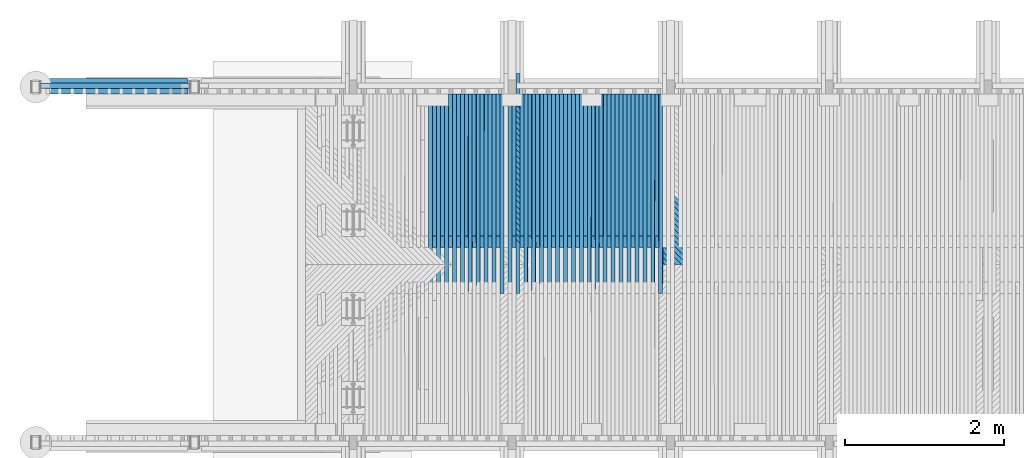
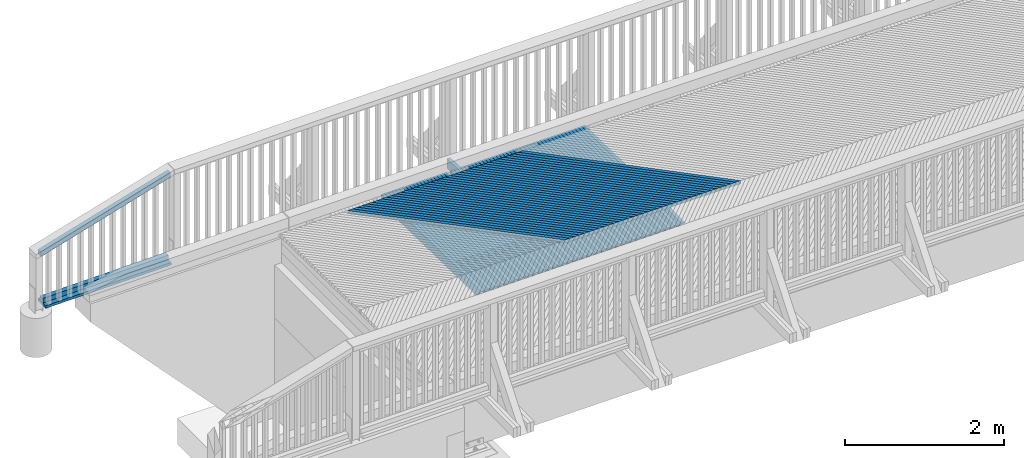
# One storey, part 20 of 53: 97 beams.
"""IFC2X3 building model written with IfcOpenShell, lengths in millimetres."""

from ifc_helpers import new_model, si_unit, frame, origin_with_axes, place, context, subcontext, project, spatial, faceted_brep, material, type_object, element, save


model = new_model("IFC2X3")

# Units and contexts
model_context = context("Model", 3, precision=1e-05, world=origin_with_axes())
body_context = subcontext(model_context, "Body", "Model", "MODEL_VIEW")
ifc_project = project(units=[si_unit("LENGTHUNIT", "METRE", prefix="MILLI"), si_unit("AREAUNIT", "SQUARE_METRE"), si_unit("VOLUMEUNIT", "CUBIC_METRE"), si_unit("MASSUNIT", "GRAM", prefix="KILO"), si_unit("TIMEUNIT", "SECOND"), si_unit("PLANEANGLEUNIT", "RADIAN"), si_unit("SOLIDANGLEUNIT", "STERADIAN"), si_unit("THERMODYNAMICTEMPERATUREUNIT", "DEGREE_CELSIUS"), si_unit("LUMINOUSINTENSITYUNIT", "LUMEN")], contexts=[model_context])

# Site, building, storey
site_placement = place(None, origin_with_axes())
site = spatial("IfcSite", under=ifc_project, at=site_placement, Name="Undefined", CompositionType="ELEMENT")
building_placement = place(site_placement, origin_with_axes())
building = spatial("IfcBuilding", under=site, at=building_placement, Name="Undefined", CompositionType="ELEMENT")
storey_placement = place(building_placement, origin_with_axes())
storey = spatial("IfcBuildingStorey", under=building, at=storey_placement, Name="Undefined", CompositionType="ELEMENT", Elevation=0.0)

# Beams
ifc_material = material(Name="TIMBER/Timber_Undefined")
beam_type_1 = type_object("IfcBeamType", Name="70*70", PredefinedType="NOTDEFINED")
beam_1_placement = place(storey_placement, frame((-3930.40492440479, 44619.9900452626, 3879.53617466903), z_axis=(0.0, 1.0, 0.0), x_axis=(0.958203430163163, 0.0, 0.286087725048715)))
element("IfcBeam", 1, at=beam_1_placement, inside=storey, type_object=beam_type_1, material=ifc_material, Name="BEAM", ObjectType="70*70", context=body_context, shape_type="Brep", body=[
    faceted_brep([(-20.4634471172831, 34.9999999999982, -35.0), (-20.4634471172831, 34.9999999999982, 35.0), (1941.54163533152, 34.9999999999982, 35.0), (1941.54163533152, 34.9999999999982, -35.0), (0.436228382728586, -35.0000000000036, 35.0), (1962.44131083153, -35.0000000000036, 35.0), (0.436228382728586, -35.0000000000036, -35.0), (1962.44131083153, -35.0000000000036, -35.0)], [[[0, 1, 2, 3]], [[1, 4, 5, 2]], [[4, 6, 7, 5]], [[6, 0, 3, 7]], [[5, 7, 3, 2]], [[6, 4, 1, 0]]]),
])
beam_2_placement = place(storey_placement, frame((-3909.4703719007, 44619.9900299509, 3156.34116342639), z_axis=(0.0, 1.0, 0.0), x_axis=(0.999883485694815, 0.0, 0.0152648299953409)))
element("IfcBeam", 2, at=beam_2_placement, inside=storey, type_object=beam_type_1, material=ifc_material, Name="BEAM", ObjectType="70*70", context=body_context, shape_type="Brep", body=[
    faceted_brep([(-3.63797880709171e-12, 35.0000000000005, -35.0), (-3.63797880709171e-12, 35.0000000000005, 35.0), (1820.22135781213, 35.0, 35.0), (1820.22135781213, 35.0, -35.0), (-3.63797880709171e-12, -34.9999999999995, 35.0), (1820.22135781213, -34.9999999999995, 35.0), (-3.63797880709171e-12, -34.9999999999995, -35.0), (1820.22135781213, -34.9999999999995, -35.0)], [[[0, 1, 2, 3]], [[1, 4, 5, 2]], [[4, 6, 7, 5]], [[6, 0, 3, 7]], [[5, 7, 3, 2]], [[6, 4, 1, 0]]]),
])
beam_type_2 = type_object("IfcBeamType", Name="195*40", PredefinedType="NOTDEFINED")
beam_3_placement = place(storey_placement, frame((-3909.69934434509, 44612.4900299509, 3101.33941571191), z_axis=(0.0, 1.0, 0.0), x_axis=(0.999883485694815, 0.0, 0.0152648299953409)))
element("IfcBeam", 3, at=beam_3_placement, inside=storey, type_object=beam_type_2, material=ifc_material, Name="BEAM", ObjectType="195*40", context=body_context, shape_type="Brep", body=[
    faceted_brep([(0.0, 20.0, -97.5), (0.0, 20.0, 97.5), (1820.22135781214, 20.0, 97.5), (1820.22135781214, 20.0, -97.5), (3.63797880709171e-12, -20.0, 97.5), (1820.22135781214, -20.0, 97.5), (3.63797880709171e-12, -20.0, -97.5), (1820.22135781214, -20.0, -97.5)], [[[0, 1, 2, 3]], [[1, 4, 5, 2]], [[4, 6, 7, 5]], [[6, 0, 3, 7]], [[5, 7, 3, 2]], [[6, 4, 1, 0]]]),
])
beam_type_3 = type_object("IfcBeamType", Name="50*50", PredefinedType="NOTDEFINED")
for number, where, z_axis, x_axis, name in (
    (4, (2407.22407080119, 42365.4998996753, 3210.14689026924), (0.707203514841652, 0.706981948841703, -0.00630179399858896), (-0.706923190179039, 0.706948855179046, -0.0219754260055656), "BEAM"),
    (5, (2477.94529164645, 42365.4998996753, 3210.79966793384), (0.707202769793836, 0.706981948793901, -0.0063848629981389), (-0.706925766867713, 0.706948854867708, -0.0218923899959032), "BEAM"),
    (6, (4882.50574585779, 42365.4998996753, 3228.05141176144), (0.707171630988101, 0.706981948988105, -0.00920913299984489), (-0.707007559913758, 0.706948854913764, -0.0190689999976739), "BEAM"),
    (7, (4811.78248202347, 42365.4998996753, 3227.68107523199), (0.707172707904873, 0.7069819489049, -0.00912606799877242), (-0.707005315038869, 0.706948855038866, -0.0191520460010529), "BEAM"),
    (8, (4741.05926217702, 42365.4998996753, 3227.30243150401), (0.707173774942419, 0.706981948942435, -0.00904300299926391), (-0.707003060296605, 0.706948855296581, -0.0192350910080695), "BEAM"),
    (9, (4670.33608729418, 42365.4998996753, 3226.91548058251), (0.707174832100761, 0.706981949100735, -0.00895993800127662), (-0.707000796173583, 0.70694885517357, -0.019318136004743), "BEAM"),
    (10, (4599.61295835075, 42365.4998996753, 3226.52022247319), (0.707175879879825, 0.706981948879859, -0.00887687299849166), (-0.706998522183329, 0.706948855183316, -0.0194011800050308), "BEAM"),
    (11, (4528.88987632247, 42365.4998996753, 3226.11665718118), (0.707176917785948, 0.706981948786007, -0.00879380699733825), (-0.706996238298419, 0.706948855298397, -0.0194842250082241), "BEAM"),
    (12, (4458.16684218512, 42365.4998996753, 3225.70478471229), (0.707177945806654, 0.706981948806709, -0.00871074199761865), (-0.706993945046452, 0.706948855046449, -0.0195672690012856), "BEAM"),
    (13, (4387.44385691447, 42365.4998996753, 3225.284605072), (0.707178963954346, 0.70698194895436, -0.00862767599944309), (-0.706991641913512, 0.706948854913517, -0.0196503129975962), "BEAM"),
    (14, (4316.72092148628, 42365.4998996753, 3224.85611826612), (0.707179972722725, 0.706981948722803, -0.00854460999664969), (-0.706989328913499, 0.706948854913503, -0.0197333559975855), "BEAM"),
    (15, (4245.99803687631, 42365.4998996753, 3224.41932430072), (0.707180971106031, 0.706981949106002, -0.0084615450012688), (-0.706987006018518, 0.706948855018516, -0.019816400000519), "BEAM"),
    (16, (4175.27520406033, 42365.4998996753, 3223.97422318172), (0.707181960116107, 0.706981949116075, -0.00837847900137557), (-0.706984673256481, 0.706948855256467, -0.0198994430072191), "BEAM"),
    (17, (4104.5524240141, 42365.4998996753, 3223.52081491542), (0.707182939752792, 0.706981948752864, -0.00829541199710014), (-0.706982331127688, 0.706948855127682, -0.019982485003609), "BEAM"),
    (18, (4033.82969771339, 42365.4998996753, 3223.05909950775), (0.707183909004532, 0.706981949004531, -0.00821234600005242), (-0.706979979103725, 0.70694885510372, -0.0200655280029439), "BEAM"),
    (19, (3963.10702613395, 42365.4998996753, 3222.58907696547), (0.707184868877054, 0.70698194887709, -0.00812927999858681), (-0.706977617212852, 0.706948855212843, -0.0201485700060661), "BEAM"),
    (20, (3892.38441025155, 42365.4998996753, 3222.11074729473), (0.707185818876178, 0.706981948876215, -0.00804621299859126), (-0.706975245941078, 0.706948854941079, -0.0202316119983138), "BEAM"),
    (21, (3821.66185104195, 42365.4998996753, 3221.62411050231), (0.707186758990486, 0.706981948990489, -0.0079631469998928), (-0.706972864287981, 0.70694885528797, -0.0203146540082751), "BEAM"),
    (22, (3750.93934948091, 42365.4998996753, 3221.12916659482), (0.707187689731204, 0.706981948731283, -0.00788007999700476), (-0.706970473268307, 0.706948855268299, -0.0203976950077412), "BEAM"),
    (23, (3680.21690654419, 42365.4998996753, 3220.62591557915), (0.707188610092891, 0.706981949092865, -0.00779701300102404), (-0.70696807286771, 0.706948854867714, -0.0204807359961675), "BEAM"),
    (24, (3609.49452320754, 42365.4998996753, 3220.11435746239), (0.707189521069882, 0.706981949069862, -0.00771394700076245), (-0.70696566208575, 0.706948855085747, -0.0205637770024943), "BEAM"),
    (25, (3538.77220044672, 42365.4998996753, 3219.59449225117), (0.707190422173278, 0.706981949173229, -0.00763088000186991), (-0.706963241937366, 0.706948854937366, -0.0206468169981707), "BEAM"),
    (26, (3468.04993923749, 42365.4998996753, 3219.06631995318), (0.707191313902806, 0.706981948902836, -0.00754781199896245), (-0.706960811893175, 0.706948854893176, -0.0207298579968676), "BEAM"),
    (27, (3397.3277405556, 42365.4998996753, 3218.52984057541), (0.707192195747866, 0.706981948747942, -0.00746474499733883), (-0.70695837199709, 0.706948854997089, -0.0208128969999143), "BEAM"),
    (28, (3326.60560537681, 42365.4998996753, 3217.98505412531), (0.707193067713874, 0.70698194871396, -0.00738167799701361), (-0.706955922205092, 0.70694885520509, -0.020895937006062), "BEAM"),
    (29, (3255.88353467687, 42365.4998996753, 3217.43196061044), (0.707193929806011, 0.70698194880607, -0.00729860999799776), (-0.706953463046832, 0.706948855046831, -0.0209789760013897), "BEAM"),
    (30, (3185.16152943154, 42365.4998996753, 3216.87056003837), (0.707194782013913, 0.70698194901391, -0.00721554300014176), (-0.706950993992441, 0.706948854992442, -0.0210620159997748), "BEAM"),
    (31, (3114.43959061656, 42365.4998996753, 3216.30085241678), (0.707195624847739, 0.706981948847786, -0.00713247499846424), (-0.706948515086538, 0.706948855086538, -0.0211450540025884), "BEAM"),
    (32, (3043.7177192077, 42365.4998996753, 3215.72283775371), (0.707196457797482, 0.706981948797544, -0.00704940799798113), (-0.706946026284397, 0.706948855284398, -0.0212280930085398), "BEAM"),
    (33, (2972.99591618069, 42365.4998996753, 3215.13651605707), (0.707197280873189, 0.706981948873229, -0.00696633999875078), (-0.706943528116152, 0.706948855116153, -0.0213111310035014), "BEAM"),
    (34, (2902.27418251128, 42365.4998996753, 3214.5418873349), (0.707198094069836, 0.706981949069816, -0.00688327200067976), (-0.706941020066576, 0.706948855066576, -0.0213941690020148), "BEAM"),
    (35, (2831.55251917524, 42365.4998996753, 3213.93895159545), (0.70719889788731, 0.706981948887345, -0.00680020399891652), (-0.706938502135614, 0.706948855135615, -0.02147720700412), "BEAM"),
    (36, (2760.83092714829, 42365.4998996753, 3213.32770884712), (0.707199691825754, 0.706981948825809, -0.00671713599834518), (-0.706935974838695, 0.706948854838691, -0.0215602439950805), "BEAM"),
    (37, (2690.1094074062, 42365.4998996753, 3212.70815909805), (0.707200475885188, 0.706981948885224, -0.00663406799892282), (-0.70693343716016, 0.706948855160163, -0.0216432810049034), "BEAM"),
    (38, (2619.38796092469, 42365.4998996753, 3212.08030235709), (0.70720125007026, 0.706981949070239, -0.00655099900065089), (-0.706930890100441, 0.706948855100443, -0.0217263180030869), "BEAM"),
    (39, (2548.66658867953, 42365.4998996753, 3211.44413863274), (0.707202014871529, 0.70698194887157, -0.00646793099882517), (-0.706928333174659, 0.706948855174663, -0.0218093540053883), "BEAM"),
):
    element("IfcBeam", number, at=place(storey_placement, frame(where, z_axis=z_axis, x_axis=x_axis)), inside=storey, type_object=beam_type_3, material=ifc_material, Name=name, ObjectType="50*50", context=body_context, shape_type="Brep", body=[
        faceted_brep([(23.5869248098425, 25.0000000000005, -24.9999999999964), (-26.415415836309, 25.0000000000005, 25.0000000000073), (2802.92643296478, 25.0, 25.0), (2852.92877373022, 25.0, -25.0000000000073), (-25.001170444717, -24.9999999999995, 25.0000000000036), (2804.3406783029, -25.0, 24.9999999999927), (25.0011701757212, -24.9999999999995, -24.9999999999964), (2854.34301907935, -25.0, -25.0)], [[[0, 1, 2, 3]], [[1, 4, 5, 2]], [[4, 6, 7, 5]], [[6, 0, 3, 7]], [[5, 7, 3, 2]], [[6, 4, 1, 0]]]),
    ])
beam_type_4 = type_object("IfcBeamType", Name="150*50", PredefinedType="NOTDEFINED")
for number, where, z_axis, x_axis, name in (
    (40, (3875.98195239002, 44513.4953923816, 3079.01849258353), (-0.00693292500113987, 0.0199960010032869, 0.999776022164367), (-0.000138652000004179, -0.99980006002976, 0.0199955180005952), "BEAM"),
    (41, (3775.96432395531, 44513.4953923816, 3078.32495570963), (-0.007098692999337, 0.0199960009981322, 0.999774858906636), (-0.00014197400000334, -0.999800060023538, 0.0199954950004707), "BEAM"),
    (42, (3675.94681213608, 44513.4953923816, 3077.61480038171), (-0.00726481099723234, 0.0199960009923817, 0.999773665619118), (-0.000145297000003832, -0.999800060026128, 0.0199954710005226), "BEAM"),
    (43, (3575.92941969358, 44513.4953923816, 3076.88802661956), (-0.00743092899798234, 0.0199960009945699, 0.999772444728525), (-0.000148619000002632, -0.999800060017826, 0.0199954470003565), "BEAM"),
    (44, (3475.91214938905, 44513.4953923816, 3076.1446344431), (-0.00759704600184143, 0.0199960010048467, 0.99977119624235), (-0.000151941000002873, -0.999800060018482, 0.0199954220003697), "BEAM"),
    (45, (3375.89500398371, 44513.4953923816, 3075.38462387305), (-0.00776316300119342, 0.0199960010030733, 0.999769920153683), (-0.000155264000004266, -0.999800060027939, 0.0199953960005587), "BEAM"),
    (46, (3275.87798623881, 44513.4953923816, 3074.60799493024), (-0.0079292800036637, 0.019996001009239, 0.99976861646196), (-0.000158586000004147, -0.999800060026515, 0.0199953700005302), "BEAM"),
    (47, (3175.86109891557, 44513.4953923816, 3073.81474763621), (-0.00809539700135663, 0.0199960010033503, 0.999767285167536), (-0.000161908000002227, -0.999800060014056, 0.0199953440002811), "BEAM"),
    (48, (3075.84434477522, 44513.4953923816, 3073.00488201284), (-0.00826151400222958, 0.0199960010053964, 0.999765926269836), (-0.00016523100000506, -0.999800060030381, 0.0199953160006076), "BEAM"),
    (49, (2975.82772657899, 44513.4953923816, 3072.1783980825), (-0.00842762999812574, 0.0199960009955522, 0.999764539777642), (-0.0001685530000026, -0.999800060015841, 0.0199952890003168), "BEAM"),
    (50, (2875.81124708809, 44513.4953923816, 3071.33529586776), (-0.00859374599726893, 0.0199960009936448, 0.999763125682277), (-0.000171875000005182, -0.999800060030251, 0.019995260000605), "BEAM"),
    (51, (2775.79490906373, 44513.4953923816, 3070.47557539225), (-0.00875986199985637, 0.0199960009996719, 0.999761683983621), (-0.000175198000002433, -0.999800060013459, 0.0199952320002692), "BEAM"),
    (52, (2675.77871526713, 44513.4953923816, 3069.5992366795), (-0.00892597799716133, 0.0199960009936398, 0.999760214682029), (-0.000178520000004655, -0.999800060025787, 0.0199952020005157), "BEAM"),
    (53, (2575.76266845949, 44513.4953923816, 3068.70627975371), (-0.00909209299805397, 0.0199960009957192, 0.999758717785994), (-0.000181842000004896, -0.999800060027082, 0.0199951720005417), "BEAM"),
    (54, (2475.74677140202, 44513.4953923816, 3067.79670463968), (-0.00925820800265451, 0.0199960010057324, 0.999757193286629), (-0.000185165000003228, -0.999800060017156, 0.0199951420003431), "BEAM"),
    (55, (2375.73102685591, 44513.4953923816, 3066.87051136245), (-0.00942432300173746, 0.0199960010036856, 0.999755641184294), (-0.000188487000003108, -0.999800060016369, 0.0199951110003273), "BEAM"),
    (56, (2275.71543758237, 44513.4953923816, 3065.9276999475), (-0.00959043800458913, 0.0199960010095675, 0.999754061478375), (-0.00019180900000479, -0.999800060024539, 0.0199950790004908), "BEAM"),
    (57, (2175.70000634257, 44513.4953923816, 3064.96827042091), (-0.00975672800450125, 0.019996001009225, 0.999752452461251), (-0.000195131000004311, -0.999800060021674, 0.0199950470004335), "BEAM"),
):
    element("IfcBeam", number, at=place(storey_placement, frame(where, z_axis=z_axis, x_axis=x_axis)), inside=storey, type_object=beam_type_4, material=ifc_material, Name=name, ObjectType="150*50", context=body_context, shape_type="Brep", body=[
        faceted_brep([(1.28420651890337e-08, -24.9999999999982, -74.9999999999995), (1.28420651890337e-08, 25.0000000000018, -75.0), (2375.00494422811, 25.0000000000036, -75.0), (2375.0049444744, -24.9999999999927, -74.9999999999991), (-1.28347892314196e-08, -24.9999999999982, 75.0), (-1.28347892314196e-08, 25.0, 75.0), (2150.42515052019, 25.0000000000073, 75.0), (2510.59248715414, 25.0000000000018, 60.5875433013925), (2510.5924871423, -24.9999999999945, 60.5875430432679), (2150.42514405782, -24.9999999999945, 75.0)], [[[0, 1, 2, 3]], [[0, 4, 5, 1]], [[2, 1, 5, 6, 7]], [[3, 2, 7, 8]], [[4, 0, 3, 8, 9]], [[5, 4, 9, 6]], [[8, 7, 6, 9]]]),
    ])
for number, where, z_axis, x_axis, name in (
    (58, (3825.98315440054, 44513.4953923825, 3078.67179443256), (-0.00693292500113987, 0.0199960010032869, 0.999776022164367), (-0.000138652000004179, -0.99980006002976, 0.0199955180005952), "BEAM"),
    (59, (3725.96558426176, 44513.4953923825, 3077.96994999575), (-0.007098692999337, 0.0199960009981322, 0.999774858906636), (-0.00014197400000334, -0.999800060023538, 0.0199954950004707), "BEAM"),
    (60, (3625.9481321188, 44513.4953923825, 3077.25148711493), (-0.00726481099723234, 0.0199960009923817, 0.999773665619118), (-0.000145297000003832, -0.999800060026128, 0.0199954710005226), "BEAM"),
    (61, (3525.93080073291, 44513.4953923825, 3076.51640581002), (-0.00743092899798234, 0.0199960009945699, 0.999772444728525), (-0.000148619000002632, -0.999800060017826, 0.0199954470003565), "BEAM"),
    (62, (3425.91359286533, 44513.4953923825, 3075.76470610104), (-0.00759704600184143, 0.0199960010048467, 0.99977119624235), (-0.000151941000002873, -0.999800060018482, 0.0199954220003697), "BEAM"),
    (63, (3325.89651127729, 44513.4953923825, 3074.99638800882), (-0.00776316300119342, 0.0199960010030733, 0.999769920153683), (-0.000155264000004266, -0.999800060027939, 0.0199953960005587), "BEAM"),
    (64, (3225.87955873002, 44513.4953923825, 3074.21145155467), (-0.0079292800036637, 0.019996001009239, 0.99976861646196), (-0.000158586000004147, -0.999800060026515, 0.0199953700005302), "BEAM"),
    (65, (3125.86273798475, 44513.4953923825, 3073.40989676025), (-0.00809539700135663, 0.0199960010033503, 0.999767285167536), (-0.000161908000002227, -0.999800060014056, 0.0199953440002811), "BEAM"),
    (66, (3025.84605180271, 44513.4953923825, 3072.59172364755), (-0.00826151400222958, 0.0199960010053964, 0.999765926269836), (-0.00016523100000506, -0.999800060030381, 0.0199953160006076), "BEAM"),
    (67, (2925.82950294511, 44513.4953923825, 3071.75693223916), (-0.00842762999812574, 0.0199960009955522, 0.999764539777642), (-0.0001685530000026, -0.999800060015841, 0.0199952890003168), "BEAM"),
    (68, (2825.81309417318, 44513.4953923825, 3070.90552255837), (-0.00859374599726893, 0.0199960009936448, 0.999763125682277), (-0.000171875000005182, -0.999800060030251, 0.019995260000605), "BEAM"),
    (69, (2725.79682824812, 44513.4953923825, 3070.03749462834), (-0.00875986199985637, 0.0199960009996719, 0.999761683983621), (-0.000175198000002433, -0.999800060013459, 0.0199952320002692), "BEAM"),
    (70, (2625.78070793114, 44513.4953923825, 3069.1528484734), (-0.00892597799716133, 0.0199960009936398, 0.999760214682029), (-0.000178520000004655, -0.999800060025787, 0.0199952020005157), "BEAM"),
    (71, (2525.76473598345, 44513.4953923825, 3068.25158411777), (-0.00909209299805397, 0.0199960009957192, 0.999758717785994), (-0.000181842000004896, -0.999800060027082, 0.0199951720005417), "BEAM"),
    (72, (2425.74891516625, 44513.4953923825, 3067.33370158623), (-0.00925820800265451, 0.0199960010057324, 0.999757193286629), (-0.000185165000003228, -0.999800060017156, 0.0199951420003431), "BEAM"),
    (73, (2325.73324824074, 44513.4953923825, 3066.39920090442), (-0.00942432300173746, 0.0199960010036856, 0.999755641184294), (-0.000188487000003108, -0.999800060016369, 0.0199951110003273), "BEAM"),
    (74, (2225.7177379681, 44513.4953923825, 3065.44808209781), (-0.00959043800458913, 0.0199960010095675, 0.999754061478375), (-0.00019180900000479, -0.999800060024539, 0.0199950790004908), "BEAM"),
    (75, (2125.70238710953, 44513.4953923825, 3064.48034519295), (-0.00975672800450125, 0.019996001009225, 0.999752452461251), (-0.000195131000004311, -0.999800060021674, 0.0199950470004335), "BEAM"),
):
    element("IfcBeam", number, at=place(storey_placement, frame(where, z_axis=z_axis, x_axis=x_axis)), inside=storey, type_object=beam_type_4, material=ifc_material, Name=name, ObjectType="150*50", context=body_context, shape_type="Brep", body=[
        faceted_brep([(1.28420651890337e-08, -24.9999999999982, -74.9999999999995), (-1.28347892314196e-08, -24.9999999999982, 75.0), (-1.28347892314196e-08, 25.0, 75.0), (1.28420651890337e-08, 25.0000000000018, -75.0), (1928.42646328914, 24.9999999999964, -74.9999999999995), (1928.42646353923, -25.0000000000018, -75.0), (1789.96936433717, -25.0000000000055, 74.9999999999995), (1789.96936408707, 24.9999999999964, 75.0000000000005)], [[[0, 1, 2, 3]], [[0, 3, 4, 5]], [[1, 0, 5, 6]], [[2, 1, 6, 7]], [[3, 2, 7, 4]], [[4, 7, 6, 5]]]),
    ])
beam_4_placement = place(storey_placement, frame((2075.63087990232, 44771.443807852, 3058.83247523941), z_axis=(-0.00992284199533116, 0.0199960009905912, 0.999750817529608), x_axis=(-0.000198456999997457, -0.99980005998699, 0.0199950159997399)))
element("IfcBeam", 76, at=beam_4_placement, inside=storey, type_object=beam_type_4, material=ifc_material, Name="BEAM", ObjectType="150*50", context=body_context, shape_type="Brep", body=[
    faceted_brep([(1.28420651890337e-08, -24.9999999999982, -74.9999999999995), (1.28420651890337e-08, 25.0000000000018, -75.0), (2633.00494750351, 25.0, -75.0), (2633.00494763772, -25.0, -75.0), (-1.28347892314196e-08, -24.9999999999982, 75.0), (-1.28347892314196e-08, 25.0, 75.0), (2408.42506824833, 24.9999999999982, 75.0), (2768.59248710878, 24.9999999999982, 60.5875398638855), (2768.59248713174, -25.0, 60.5875397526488), (2408.42506549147, -25.0000000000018, 75.0000000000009)], [[[0, 1, 2, 3]], [[0, 4, 5, 1]], [[2, 1, 5, 6, 7]], [[3, 2, 7, 8]], [[4, 0, 3, 8, 9]], [[5, 4, 9, 6]], [[8, 7, 6, 9]]]),
])
for number, where, z_axis, x_axis, name in (
    (77, (1975.66962900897, 44513.4953923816, 3062.99955713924), (-0.0100889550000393, 0.0199960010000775, 0.9997491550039), (-0.000202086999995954, -0.999800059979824, 0.0199949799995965), "BEAM"),
    (78, (1875.65468843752, 44513.4953923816, 3061.99027343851), (-0.010255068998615, 0.0199960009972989, 0.999747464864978), (-0.000205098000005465, -0.999800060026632, 0.0199949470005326), "BEAM"),
    (79, (1775.63991694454, 44513.4953923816, 3060.964371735), (-0.0104210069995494, 0.0199960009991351, 0.999745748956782), (-0.000208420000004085, -0.999800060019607, 0.0199949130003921), "BEAM"),
    (80, (1675.6253172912, 44513.4953923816, 3059.92185205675), (-0.0105871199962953, 0.0199960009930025, 0.99974400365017), (-0.000211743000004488, -0.999800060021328, 0.0199948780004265), "BEAM"),
    (81, (1575.61089223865, 44513.4953923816, 3058.86271443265), (-0.0107532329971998, 0.0199960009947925, 0.999742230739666), (-0.00021506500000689, -0.999800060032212, 0.0199948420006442), "BEAM"),
    (82, (1475.59664454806, 44513.4953923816, 3057.78695889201), (-0.010919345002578, 0.0199960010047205, 0.999740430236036), (-0.000218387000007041, -0.999800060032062, 0.0199948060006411), "BEAM"),
    (83, (1375.58257698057, 44513.4953923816, 3056.69458546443), (-0.011085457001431, 0.019996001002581, 0.999738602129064), (-0.00022170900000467, -0.999800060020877, 0.0199947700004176), "BEAM"),
    (84, (1275.56869229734, 44513.4953923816, 3055.58559418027), (-0.0112515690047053, 0.0199960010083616, 0.999736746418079), (-0.000225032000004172, -0.999800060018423, 0.0199947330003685), "BEAM"),
    (85, (1175.55499325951, 44513.4953923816, 3054.45998506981), (-0.0114176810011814, 0.0199960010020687, 0.999734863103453), (-0.000228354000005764, -0.999800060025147, 0.019994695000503), "BEAM"),
    (86, (1075.54148262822, 44513.4953923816, 3053.31775816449), (-0.0115837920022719, 0.0199960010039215, 0.999732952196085), (-0.000231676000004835, -0.999800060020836, 0.0199946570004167), "BEAM"),
    (87, (975.528163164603, 44513.4953923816, 3052.1589134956), (-0.011749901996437, 0.019996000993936, 0.999731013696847), (-0.000234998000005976, -0.99980006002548, 0.0199946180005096), "BEAM"),
):
    element("IfcBeam", number, at=place(storey_placement, frame(where, z_axis=z_axis, x_axis=x_axis)), inside=storey, type_object=beam_type_4, material=ifc_material, Name=name, ObjectType="150*50", context=body_context, shape_type="Brep", body=[
        faceted_brep([(1.28420651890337e-08, -24.9999999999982, -74.9999999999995), (1.28420651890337e-08, 25.0000000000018, -75.0), (2375.00494422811, 25.0000000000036, -75.0), (2375.0049444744, -24.9999999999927, -74.9999999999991), (-1.28347892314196e-08, -24.9999999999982, 75.0), (-1.28347892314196e-08, 25.0, 75.0), (2150.42515052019, 25.0000000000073, 75.0), (2510.59248715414, 25.0000000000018, 60.5875433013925), (2510.5924871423, -24.9999999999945, 60.5875430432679), (2150.42514405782, -24.9999999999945, 75.0)], [[[0, 1, 2, 3]], [[0, 4, 5, 1]], [[2, 1, 5, 6, 7]], [[3, 2, 7, 8]], [[4, 0, 3, 8, 9]], [[5, 4, 9, 6]], [[8, 7, 6, 9]]]),
    ])
for number, where, z_axis, x_axis, name in (
    (88, (2025.68719842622, 44513.4953923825, 3063.49599021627), (-0.00992284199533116, 0.0199960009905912, 0.999750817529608), (-0.000198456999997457, -0.99980005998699, 0.0199950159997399), "BEAM"),
    (89, (1825.65731863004, 44513.4953923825, 3061.47742615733), (-0.010255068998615, 0.0199960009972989, 0.999747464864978), (-0.000205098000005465, -0.999800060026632, 0.0199949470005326), "BEAM"),
    (90, (1725.64263303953, 44513.4953923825, 3060.44321713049), (-0.0104210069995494, 0.0199960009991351, 0.999745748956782), (-0.000208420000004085, -0.999800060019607, 0.0199949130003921), "BEAM"),
    (91, (1625.62812066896, 44513.4953923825, 3059.39239014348), (-0.0105871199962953, 0.0199960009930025, 0.99974400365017), (-0.000211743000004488, -0.999800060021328, 0.0199948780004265), "BEAM"),
    (92, (1525.61378427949, 44513.4953923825, 3058.32494522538), (-0.0107532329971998, 0.0199960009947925, 0.999742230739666), (-0.00021506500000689, -0.999800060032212, 0.0199948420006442), "BEAM"),
    (93, (1425.59962663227, 44513.4953923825, 3057.24088240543), (-0.010919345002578, 0.0199960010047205, 0.999740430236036), (-0.000218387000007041, -0.999800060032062, 0.0199948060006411), "BEAM"),
    (94, (1325.58565048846, 44513.4953923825, 3056.14020171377), (-0.011085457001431, 0.019996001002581, 0.999738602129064), (-0.00022170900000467, -0.999800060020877, 0.0199947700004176), "BEAM"),
    (95, (1225.57185860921, 44513.4953923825, 3055.02290318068), (-0.0112515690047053, 0.0199960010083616, 0.999736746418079), (-0.000225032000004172, -0.999800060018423, 0.0199947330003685), "BEAM"),
    (96, (1125.55825375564, 44513.4953923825, 3053.888986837), (-0.0114176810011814, 0.0199960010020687, 0.999734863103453), (-0.000228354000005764, -0.999800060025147, 0.019994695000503), "BEAM"),
    (97, (1025.5448386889, 44513.4953923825, 3052.73845271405), (-0.0115837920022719, 0.0199960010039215, 0.999732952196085), (-0.000231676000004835, -0.999800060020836, 0.0199946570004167), "BEAM"),
):
    element("IfcBeam", number, at=place(storey_placement, frame(where, z_axis=z_axis, x_axis=x_axis)), inside=storey, type_object=beam_type_4, material=ifc_material, Name=name, ObjectType="150*50", context=body_context, shape_type="Brep", body=[
        faceted_brep([(1.28420651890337e-08, -24.9999999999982, -74.9999999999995), (-1.28347892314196e-08, -24.9999999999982, 75.0), (-1.28347892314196e-08, 25.0, 75.0), (1.28420651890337e-08, 25.0000000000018, -75.0), (1928.42646328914, 24.9999999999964, -74.9999999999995), (1928.42646353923, -25.0000000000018, -75.0), (1789.96936433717, -25.0000000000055, 74.9999999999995), (1789.96936408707, 24.9999999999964, 75.0000000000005)], [[[0, 1, 2, 3]], [[0, 3, 4, 5]], [[1, 0, 5, 6]], [[2, 1, 6, 7]], [[3, 2, 7, 4]], [[4, 7, 6, 5]]]),
    ])

save(model, "model.ifc")
